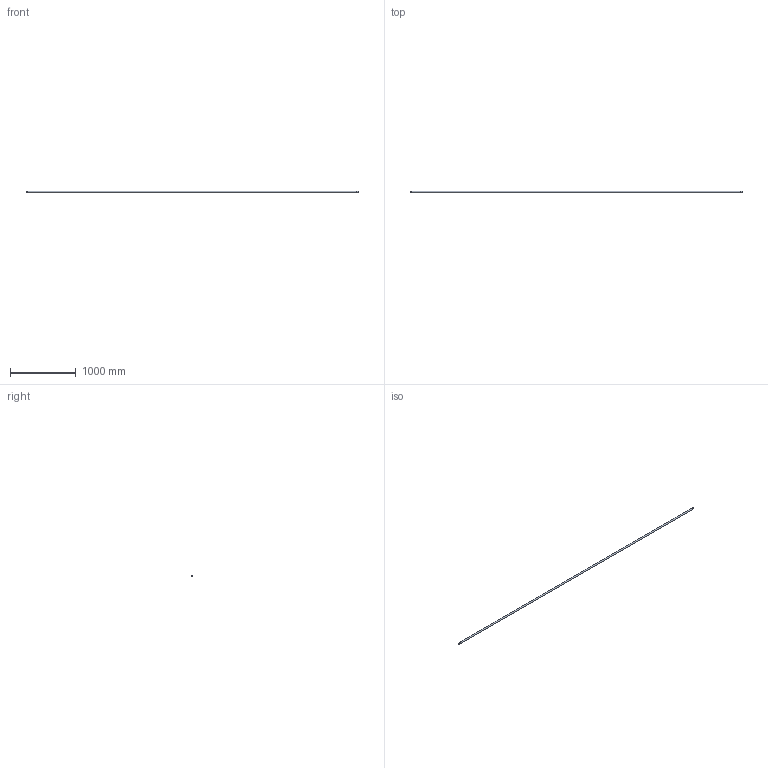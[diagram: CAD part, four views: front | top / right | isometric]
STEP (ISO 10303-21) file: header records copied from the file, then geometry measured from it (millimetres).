
FILE_DESCRIPTION(('FreeCAD Model'),'2;1');
FILE_NAME('Open CASCADE Shape Model','2026-10-12T23:06:14',('Author'),( ''),'Open CASCADE STEP processor 7.8','FreeCAD','Unknown');
FILE_SCHEMA(('AUTOMOTIVE_DESIGN { 1 0 10303 214 1 1 1 1 }'));
Length unit declared in the file: millimetre
Products named in the file (4): noodles; Rope_spaghetti_5m; EndCap_Start; EndCap_End
Assembly tree (3 placements, depth 2):
  noodles
    Rope_spaghetti_5m
    EndCap_Start
    EndCap_End
Bounding box: 5056 x 22.88 x 22.88 mm (x, y, z)
Volume: 1923688 mm3; surface area: 352005.3 mm2
Topology: 3 solids, 3 shells, 9 faces, 9 edges, 6 vertices
Faces by surface type: plane 6, cylinder 3
Full cylindrical faces by diameter (mm): 22 x1, 22.88 x2
Entity records: 229 total; most frequent: DIRECTION 41, CARTESIAN_POINT 28, AXIS2_PLACEMENT_3D 19, ORIENTED_EDGE 18, ADVANCED_FACE 9, FACE_BOUND 9, EDGE_LOOP 9, EDGE_CURVE 9
